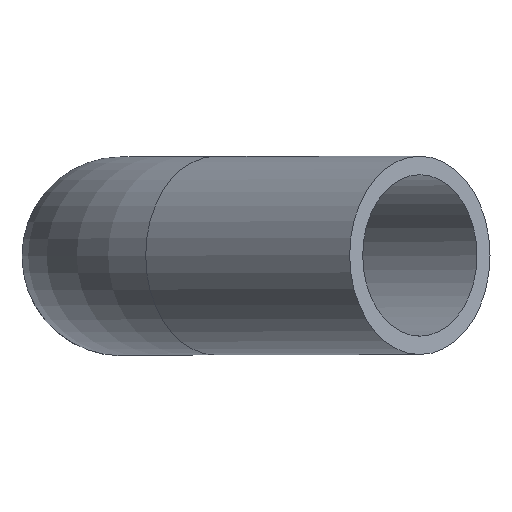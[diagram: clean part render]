
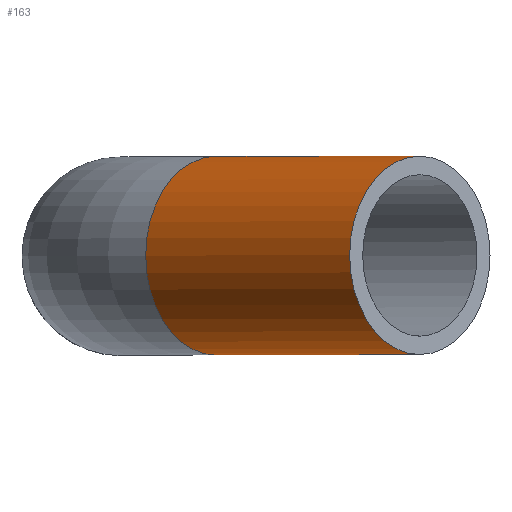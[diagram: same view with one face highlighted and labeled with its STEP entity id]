
A CAD part, top view. The second image highlights one B-rep face of the part: STEP entity #163.
In plain terms, the highlighted cylindrical face has radius 8.6 mm (diameter 17.2 mm), a full revolution.
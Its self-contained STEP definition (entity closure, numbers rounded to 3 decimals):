
#136=CARTESIAN_POINT('',(8.201,0.0,44.801));
#137=DIRECTION('',(0.707,0.0,0.707));
#138=DIRECTION('',(-0.707,0.0,0.707));
#139=AXIS2_PLACEMENT_3D('',#136,#137,#138);
#140=CYLINDRICAL_SURFACE('',#139,8.6);
#141=CARTESIAN_POINT('',(31.961,0.,56.399));
#142=VERTEX_POINT('',#141);
#143=CARTESIAN_POINT('',(25.88,0.0,62.48));
#144=DIRECTION('',(-0.707,0.0,-0.707));
#145=DIRECTION('',(-0.707,0.0,0.707));
#146=AXIS2_PLACEMENT_3D('',#143,#144,#145);
#147=CIRCLE('',#146,8.6);
#148=EDGE_CURVE('',#142,#142,#147,.T.);
#149=ORIENTED_EDGE('',*,*,#148,.T.);
#150=EDGE_LOOP('',(#149));
#151=FACE_OUTER_BOUND('',#150,.T.);
#152=CARTESIAN_POINT('',(14.282,0.,38.72));
#153=VERTEX_POINT('',#152);
#154=CARTESIAN_POINT('',(8.201,0.0,44.801));
#155=DIRECTION('',(-0.707,0.0,-0.707));
#156=DIRECTION('',(-0.707,0.0,0.707));
#157=AXIS2_PLACEMENT_3D('',#154,#155,#156);
#158=CIRCLE('',#157,8.6);
#159=EDGE_CURVE('',#153,#153,#158,.T.);
#160=ORIENTED_EDGE('',*,*,#159,.F.);
#161=EDGE_LOOP('',(#160));
#162=FACE_BOUND('',#161,.T.);
#163=ADVANCED_FACE('',(#151,#162),#140,.T.);
